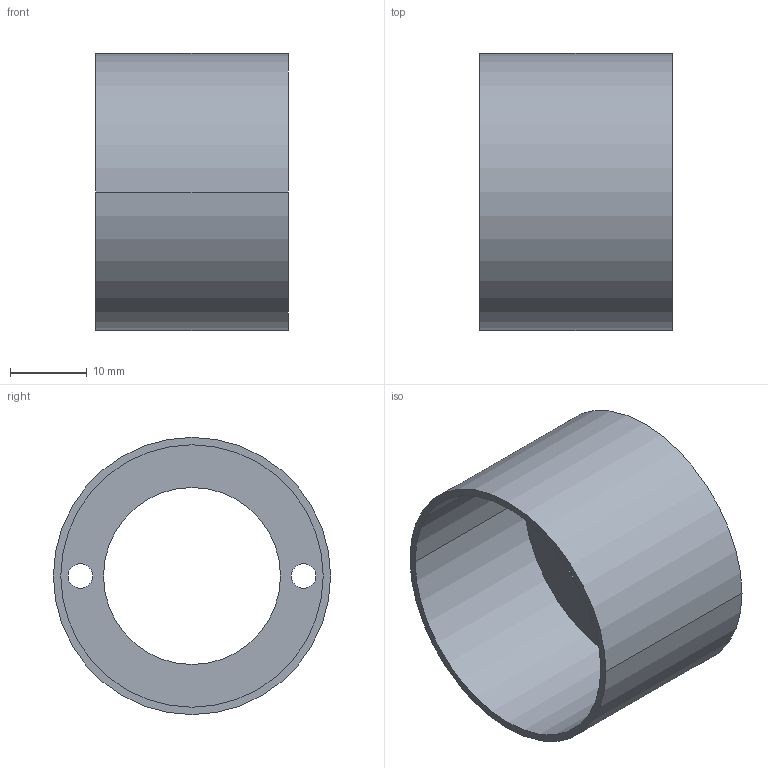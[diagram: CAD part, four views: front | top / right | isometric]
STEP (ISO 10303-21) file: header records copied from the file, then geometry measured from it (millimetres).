
FILE_DESCRIPTION(/* description */ ('(C) Elphel, Inc. 2012. Licensed under CERN OHL v.1.1 or later, see http://ohwr.org/cernohl'),/* implementation_level */ '2;1');
FILE_NAME(/* name */ '0353-40-121',/* time_stamp */ '2012-03-09T17:19:30-07:00',/* author */ (''),/* organization */ ('Elphel, Inc'),/* preprocessor_version */ 'ST-DEVELOPER v12',/* originating_system */ 'VariCAD 2012-1.04; kernel version (20100102)',/* authorisation */ '');
FILE_SCHEMA (('AUTOMOTIVE_DESIGN'));
Length unit declared in the file: millimetre
Products named in the file (1): Part
Bounding box: 25 x 36 x 36 mm (x, y, z)
Volume: 5023.7 mm3; surface area: 6604.4 mm2
Topology: 1 solids, 1 shells, 13 faces, 30 edges, 20 vertices
Faces by surface type: cylinder 10, plane 3
Entity records: 423 total; most frequent: DIRECTION 80, CARTESIAN_POINT 65, ORIENTED_EDGE 60, AXIS2_PLACEMENT_3D 35, EDGE_CURVE 30, EDGE_LOOP 20, CIRCLE 20, VERTEX_POINT 20
